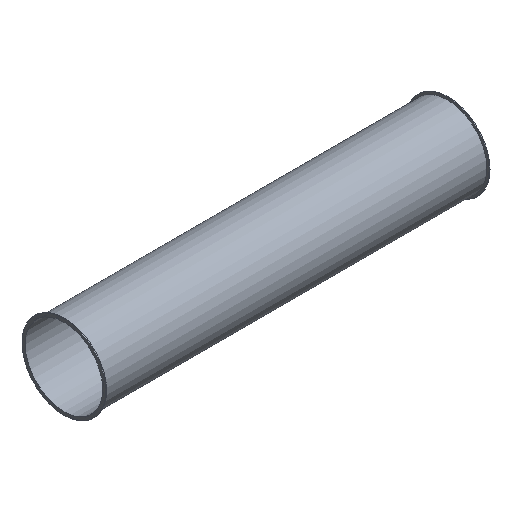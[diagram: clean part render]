
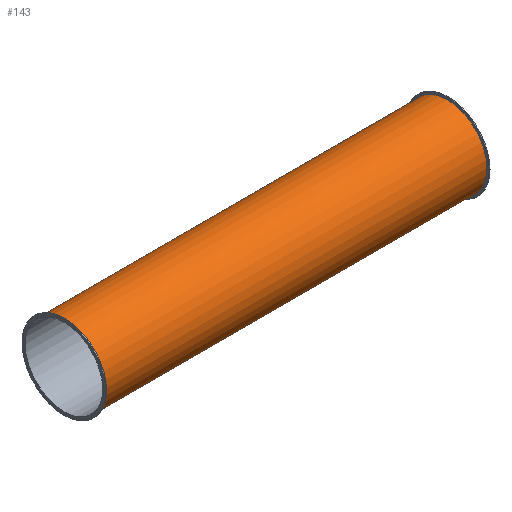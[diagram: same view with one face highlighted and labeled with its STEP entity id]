
A CAD part, isometric view. The second image highlights one B-rep face of the part: STEP entity #143.
In plain terms, the highlighted cylindrical face has radius 101.5 mm (diameter 203 mm), a full revolution.
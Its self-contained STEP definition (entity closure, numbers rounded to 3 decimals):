
#112=CARTESIAN_POINT('',(952.119,2.817,0.0));
#113=VERTEX_POINT('',#112);
#114=CARTESIAN_POINT('',(952.119,104.317,0.0));
#115=DIRECTION('',(-1.0,0.0,0.0));
#116=DIRECTION('',(0.0,-1.0,0.0));
#117=AXIS2_PLACEMENT_3D('',#114,#115,#116);
#118=CIRCLE('',#117,101.5);
#119=EDGE_CURVE('',#113,#113,#118,.T.);
#124=CARTESIAN_POINT('',(461.119,104.317,0.0));
#125=DIRECTION('',(-1.0,0.,0.0));
#126=DIRECTION('',(0.0,-1.0,0.0));
#127=AXIS2_PLACEMENT_3D('',#124,#125,#126);
#128=CYLINDRICAL_SURFACE('',#127,101.5);
#129=CARTESIAN_POINT('',(-29.881,2.817,0.0));
#130=VERTEX_POINT('',#129);
#131=CARTESIAN_POINT('',(-29.881,104.317,0.0));
#132=DIRECTION('',(-1.0,0.0,0.0));
#133=DIRECTION('',(0.0,-1.0,0.0));
#134=AXIS2_PLACEMENT_3D('',#131,#132,#133);
#135=CIRCLE('',#134,101.5);
#136=EDGE_CURVE('',#130,#130,#135,.T.);
#137=ORIENTED_EDGE('',*,*,#136,.F.);
#138=EDGE_LOOP('',(#137));
#139=FACE_OUTER_BOUND('',#138,.T.);
#140=ORIENTED_EDGE('',*,*,#119,.T.);
#141=EDGE_LOOP('',(#140));
#142=FACE_BOUND('',#141,.T.);
#143=ADVANCED_FACE('',(#139,#142),#128,.T.);
